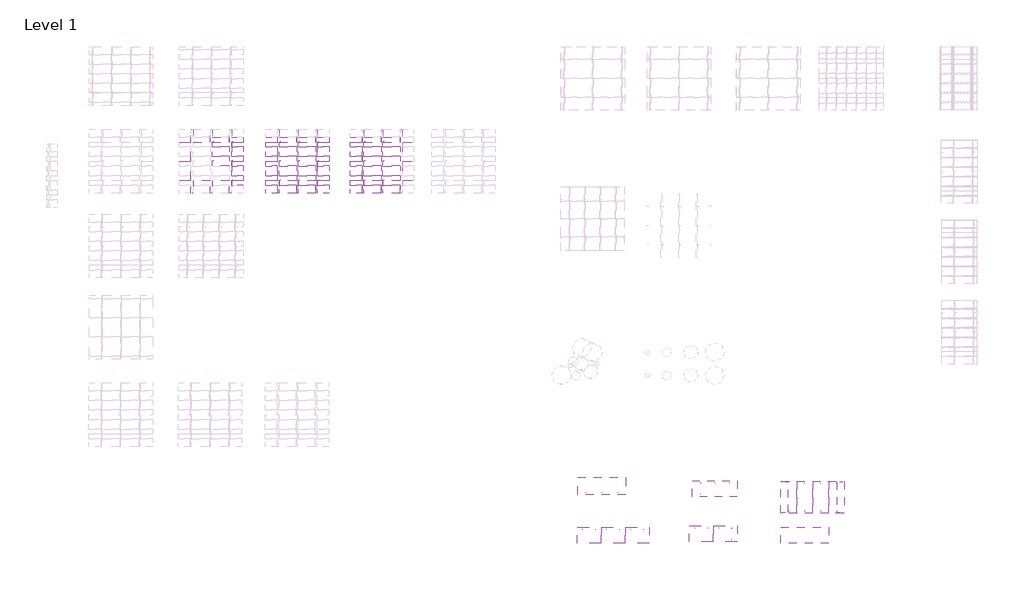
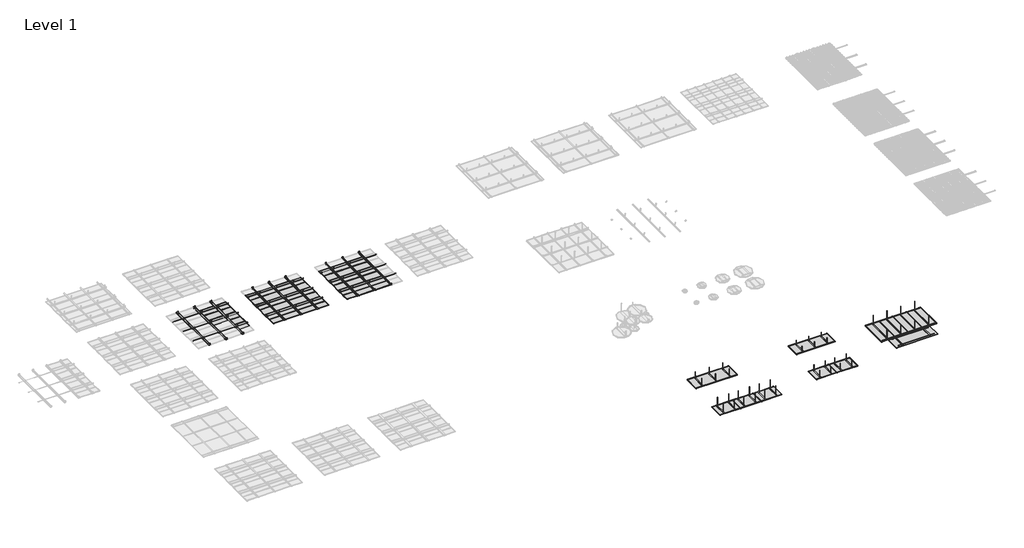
# One storey, part 8 of 32: 138 proxies.
"""IFC4 building model written with IfcOpenShell, lengths in millimetres."""

from ifc_helpers import new_model, si_unit, origin, place, context, project, spatial, transform, mapped, element, save
from components import generic_models_52426d55, generic_models_0eccee6e, generic_models_6a377f2d, generic_models_94a974c4, generic_models_d8b8c2a7, generic_models_cbd92ba2, generic_models_7af44e7f, generic_models_ce491251, generic_models_413290ff, generic_models_204b18f4, generic_models_ee162b96, generic_models_e66d4f3b, generic_models_28f6a95c, generic_models_9e18e937, generic_models_629f62d5, generic_models_460f2259, generic_models_2f172364, generic_models_67140d94, generic_models_d52b243d, generic_models_72923a4e, generic_models_4f811f19, generic_models_5acbdc38

model = new_model("IFC4")

# Units and contexts
model_context = context("Model", 3, world=origin())
ifc_project = project(units=[si_unit("LENGTHUNIT", "METRE", prefix="MILLI")], contexts=[model_context])

# Site, building, storey
site = spatial("IfcSite", under=ifc_project)
building = spatial("IfcBuilding", under=site)
storey = spatial("IfcBuildingStorey", under=building, Name="Level 1", Elevation=0.0)

# Proxies
placement = place(None, origin())
generic_models_shape = generic_models_52426d55(model_context)
element("IfcBuildingElementProxy", 1, Name="durlum_dur_SOLO_RHOMBOS_TYPE1 : durlum_dur_SOLO_RHOMBOS_TYPE1", ObjectType="durlum_dur_SOLO_RHOMBOS_TYPE1 : durlum_dur_SOLO_RHOMBOS_TYPE1", at=placement, inside=storey, context=model_context, shape_type="MappedRepresentation", body=[
    mapped(generic_models_shape, transform((12731.8454184, -21806.0362462, 3456.9628151), x_axis=(1.0, 0.0, 0.0), y_axis=(0.0, 1.0, 0.0), z_axis=(0.0, 0.0, 1.0))),
])
generic_models_2_shape = generic_models_0eccee6e(model_context)
element("IfcBuildingElementProxy", 2, Name="durlum_dur_SOLO_RHOMBOS_TYPE1 : durlum_dur_SOLO_RHOMBOS_TYPE1", ObjectType="durlum_dur_SOLO_RHOMBOS_TYPE1 : durlum_dur_SOLO_RHOMBOS_TYPE1", at=placement, inside=storey, context=model_context, shape_type="MappedRepresentation", body=[
    mapped(generic_models_2_shape, transform((14946.6662215, -24871.8754761, 3268.4515177), x_axis=(1.0, 0.0, 0.0), y_axis=(0.0, 1.0, 0.0), z_axis=(0.0, 0.0, 1.0))),
])
element("IfcBuildingElementProxy", 3, Name="durlum_dur_SOLO_RHOMBOS_TYPE1 : durlum_dur_SOLO_RHOMBOS_TYPE1", ObjectType="durlum_dur_SOLO_RHOMBOS_TYPE1 : durlum_dur_SOLO_RHOMBOS_TYPE1", at=placement, inside=storey, context=model_context, shape_type="MappedRepresentation", body=[
    mapped(generic_models_2_shape, transform((11946.6662215, -24871.8754761, 3268.4515177), x_axis=(1.0, 0.0, 0.0), y_axis=(0.0, 1.0, 0.0), z_axis=(0.0, 0.0, 1.0))),
])
element("IfcBuildingElementProxy", 4, Name="durlum_dur_SOLO_RHOMBOS_TYPE1 : durlum_dur_SOLO_RHOMBOS_TYPE1", ObjectType="durlum_dur_SOLO_RHOMBOS_TYPE1 : durlum_dur_SOLO_RHOMBOS_TYPE1", at=placement, inside=storey, context=model_context, shape_type="MappedRepresentation", body=[
    mapped(generic_models_2_shape, transform((13446.6662215, -24871.8754761, 3268.4515177), x_axis=(1.0, 0.0, 0.0), y_axis=(0.0, 1.0, 0.0), z_axis=(0.0, 0.0, 1.0))),
])
generic_models_3_shape = generic_models_6a377f2d(model_context)
element("IfcBuildingElementProxy", 5, Name="durlum_dur_SOLO_ACTIVE : durlum_dur_SOLO_ACTIVE", ObjectType="durlum_dur_SOLO_ACTIVE : durlum_dur_SOLO_ACTIVE", at=placement, inside=storey, context=model_context, shape_type="MappedRepresentation", body=[
    mapped(generic_models_3_shape, transform((25453.1966909, -24871.8754761, 3940.0), x_axis=(1.0, 0.0, 0.0), y_axis=(0.0, 1.0, 0.0), z_axis=(0.0, 0.0, 1.0))),
])
generic_models_4_shape = generic_models_94a974c4(model_context)
element("IfcBuildingElementProxy", 6, Name="durlum_dur_SOLO_TYPE4 : durlum_dur_SOLO_TYPE4", ObjectType="durlum_dur_SOLO_TYPE4 : durlum_dur_SOLO_TYPE4", at=placement, inside=storey, context=model_context, shape_type="MappedRepresentation", body=[
    mapped(generic_models_4_shape, transform((25937.9184493, -22496.5016177, 1568.4515177), x_axis=(1.0, 0.0, 0.0), y_axis=(0.0, 1.0, 0.0), z_axis=(0.0, 0.0, 1.0))),
])
generic_models_5_shape = generic_models_d8b8c2a7(model_context)
element("IfcBuildingElementProxy", 7, Name="durlum_dur_SOLO_TYPE4_panel : durlum_dur_SOLO_TYPE4_panel", ObjectType="durlum_dur_SOLO_TYPE4_panel : durlum_dur_SOLO_TYPE4_panel", at=placement, inside=storey, context=model_context, shape_type="MappedRepresentation", body=[
    mapped(generic_models_5_shape, transform((26437.9184493, -22496.5016177, 3268.4515177), x_axis=(0.0, 1.0, 0.0), y_axis=(-1.0, 0.0, 0.0), z_axis=(0.0, 0.0, 1.0))),
])
element("IfcBuildingElementProxy", 8, Name="durlum_dur_SOLO_TYPE4_panel : durlum_dur_SOLO_TYPE4_panel", ObjectType="durlum_dur_SOLO_TYPE4_panel : durlum_dur_SOLO_TYPE4_panel", at=placement, inside=storey, context=model_context, shape_type="MappedRepresentation", body=[
    mapped(generic_models_5_shape, transform((25437.9184493, -22496.5016177, 3268.4515177), x_axis=(0.0, 1.0, 0.0), y_axis=(-1.0, 0.0, 0.0), z_axis=(0.0, 0.0, 1.0))),
])
element("IfcBuildingElementProxy", 9, Name="durlum_dur_SOLO_TYPE4_panel : durlum_dur_SOLO_TYPE4_panel", ObjectType="durlum_dur_SOLO_TYPE4_panel : durlum_dur_SOLO_TYPE4_panel", at=placement, inside=storey, context=model_context, shape_type="MappedRepresentation", body=[
    mapped(generic_models_5_shape, transform((27437.9184493, -22496.5016177, 3268.4515177), x_axis=(0.0, 1.0, 0.0), y_axis=(-1.0, 0.0, 0.0), z_axis=(0.0, 0.0, 1.0))),
])
element("IfcBuildingElementProxy", 10, Name="durlum_dur_SOLO_TYPE4_panel : durlum_dur_SOLO_TYPE4_panel", ObjectType="durlum_dur_SOLO_TYPE4_panel : durlum_dur_SOLO_TYPE4_panel", at=placement, inside=storey, context=model_context, shape_type="MappedRepresentation", body=[
    mapped(generic_models_5_shape, transform((24437.9184493, -22496.5016177, 3268.4515177), x_axis=(0.0, 1.0, 0.0), y_axis=(-1.0, 0.0, 0.0), z_axis=(0.0, 0.0, 1.0))),
])
generic_models_6_shape = generic_models_cbd92ba2(model_context)
element("IfcBuildingElementProxy", 11, Name="durlum_S5.4K-BR : durlum_S5.4K-BR", ObjectType="durlum_S5.4K-BR : durlum_S5.4K-BR", at=placement, inside=storey, context=model_context, shape_type="MappedRepresentation", body=[
    mapped(generic_models_6_shape, transform((-6336.0747393, -1448.2303881, 1700.0), x_axis=(1.0, 0.0, 0.0), y_axis=(0.0, 1.0, 0.0), z_axis=(0.0, 0.0, 1.0))),
])
generic_models_7_shape = generic_models_7af44e7f(model_context)
element("IfcBuildingElementProxy", 12, Name="durlum_S5-150 : durlum_S5-150", ObjectType="durlum_S5-150 : durlum_S5-150", at=placement, inside=storey, context=model_context, shape_type="MappedRepresentation", body=[
    mapped(generic_models_7_shape, transform((-11736.0747393, -1448.2303881, 1700.0), x_axis=(1.0, 0.0, 0.0), y_axis=(0.0, 1.0, 0.0), z_axis=(0.0, 0.0, 1.0))),
])
generic_models_8_shape = generic_models_ce491251(model_context)
element("IfcBuildingElementProxy", 13, Name="durlum_U1300 : durlum_U1300", ObjectType="durlum_U1300 : durlum_U1300", at=placement, inside=storey, context=model_context, shape_type="MappedRepresentation", body=[
    mapped(generic_models_8_shape, transform((-10436.0747393, -2648.2303881, 3149.4124682), x_axis=(-1.0, 0.0, 0.0), y_axis=(0.0, -1.0, 0.0), z_axis=(0.0, 0.0, 1.0))),
])
element("IfcBuildingElementProxy", 14, Name="durlum_U1300 : durlum_U1300", ObjectType="durlum_U1300 : durlum_U1300", at=placement, inside=storey, context=model_context, shape_type="MappedRepresentation", body=[
    mapped(generic_models_8_shape, transform((-10436.0747393, -248.2303881, 3149.4124682), x_axis=(-1.0, 0.0, 0.0), y_axis=(0.0, -1.0, 0.0), z_axis=(0.0, 0.0, 1.0))),
])
element("IfcBuildingElementProxy", 15, Name="durlum_U1300 : durlum_U1300", ObjectType="durlum_U1300 : durlum_U1300", at=placement, inside=storey, context=model_context, shape_type="MappedRepresentation", body=[
    mapped(generic_models_8_shape, transform((-11636.0747393, -248.2303881, 3149.4124682), x_axis=(-1.0, 0.0, 0.0), y_axis=(0.0, -1.0, 0.0), z_axis=(0.0, 0.0, 1.0))),
])
element("IfcBuildingElementProxy", 16, Name="durlum_U1300 : durlum_U1300", ObjectType="durlum_U1300 : durlum_U1300", at=placement, inside=storey, context=model_context, shape_type="MappedRepresentation", body=[
    mapped(generic_models_8_shape, transform((-10436.0747393, -1448.2303881, 3149.4124682), x_axis=(-1.0, 0.0, 0.0), y_axis=(0.0, -1.0, 0.0), z_axis=(0.0, 0.0, 1.0))),
])
element("IfcBuildingElementProxy", 17, Name="durlum_U1300 : durlum_U1300", ObjectType="durlum_U1300 : durlum_U1300", at=placement, inside=storey, context=model_context, shape_type="MappedRepresentation", body=[
    mapped(generic_models_8_shape, transform((-11636.0747393, -1448.2303881, 3149.4124682), x_axis=(-1.0, 0.0, 0.0), y_axis=(0.0, -1.0, 0.0), z_axis=(0.0, 0.0, 1.0))),
])
element("IfcBuildingElementProxy", 18, Name="durlum_U1300 : durlum_U1300", ObjectType="durlum_U1300 : durlum_U1300", at=placement, inside=storey, context=model_context, shape_type="MappedRepresentation", body=[
    mapped(generic_models_8_shape, transform((-7436.0747393, -1448.2303881, 3149.4124682), x_axis=(-1.0, 0.0, 0.0), y_axis=(0.0, -1.0, 0.0), z_axis=(0.0, 0.0, 1.0))),
])
element("IfcBuildingElementProxy", 19, Name="durlum_U1300 : durlum_U1300", ObjectType="durlum_U1300 : durlum_U1300", at=placement, inside=storey, context=model_context, shape_type="MappedRepresentation", body=[
    mapped(generic_models_8_shape, transform((-7436.0747393, -2648.2303881, 3149.4124682), x_axis=(-1.0, 0.0, 0.0), y_axis=(0.0, -1.0, 0.0), z_axis=(0.0, 0.0, 1.0))),
])
element("IfcBuildingElementProxy", 20, Name="durlum_U1300 : durlum_U1300", ObjectType="durlum_U1300 : durlum_U1300", at=placement, inside=storey, context=model_context, shape_type="MappedRepresentation", body=[
    mapped(generic_models_8_shape, transform((-7436.0747393, -248.2303881, 3149.4124682), x_axis=(-1.0, 0.0, 0.0), y_axis=(0.0, -1.0, 0.0), z_axis=(0.0, 0.0, 1.0))),
])
element("IfcBuildingElementProxy", 21, Name="durlum_U1300 : durlum_U1300", ObjectType="durlum_U1300 : durlum_U1300", at=placement, inside=storey, context=model_context, shape_type="MappedRepresentation", body=[
    mapped(generic_models_8_shape, transform((-5036.0747393, -2648.2303881, 3149.4124682), x_axis=(-1.0, 0.0, 0.0), y_axis=(0.0, -1.0, 0.0), z_axis=(0.0, 0.0, 1.0))),
])
element("IfcBuildingElementProxy", 22, Name="durlum_U1300 : durlum_U1300", ObjectType="durlum_U1300 : durlum_U1300", at=placement, inside=storey, context=model_context, shape_type="MappedRepresentation", body=[
    mapped(generic_models_8_shape, transform((-5036.0747393, -248.2303881, 3149.4124682), x_axis=(-1.0, 0.0, 0.0), y_axis=(0.0, -1.0, 0.0), z_axis=(0.0, 0.0, 1.0))),
])
element("IfcBuildingElementProxy", 23, Name="durlum_U1300 : durlum_U1300", ObjectType="durlum_U1300 : durlum_U1300", at=placement, inside=storey, context=model_context, shape_type="MappedRepresentation", body=[
    mapped(generic_models_8_shape, transform((-5036.0747393, -1448.2303881, 3149.4124682), x_axis=(-1.0, 0.0, 0.0), y_axis=(0.0, -1.0, 0.0), z_axis=(0.0, 0.0, 1.0))),
])
element("IfcBuildingElementProxy", 24, Name="durlum_U1300 : durlum_U1300", ObjectType="durlum_U1300 : durlum_U1300", at=placement, inside=storey, context=model_context, shape_type="MappedRepresentation", body=[
    mapped(generic_models_8_shape, transform((-2136.0747393, -1448.2303881, 3149.4124682), x_axis=(-1.0, 0.0, 0.0), y_axis=(0.0, -1.0, 0.0), z_axis=(0.0, 0.0, 1.0))),
])
element("IfcBuildingElementProxy", 25, Name="durlum_U1300 : durlum_U1300", ObjectType="durlum_U1300 : durlum_U1300", at=placement, inside=storey, context=model_context, shape_type="MappedRepresentation", body=[
    mapped(generic_models_8_shape, transform((-2136.0747393, -2648.2303881, 3149.4124682), x_axis=(-1.0, 0.0, 0.0), y_axis=(0.0, -1.0, 0.0), z_axis=(0.0, 0.0, 1.0))),
])
element("IfcBuildingElementProxy", 26, Name="durlum_U1300 : durlum_U1300", ObjectType="durlum_U1300 : durlum_U1300", at=placement, inside=storey, context=model_context, shape_type="MappedRepresentation", body=[
    mapped(generic_models_8_shape, transform((-2136.0747393, -248.2303881, 3149.4124682), x_axis=(-1.0, 0.0, 0.0), y_axis=(0.0, -1.0, 0.0), z_axis=(0.0, 0.0, 1.0))),
])
element("IfcBuildingElementProxy", 27, Name="durlum_U1300 : durlum_U1300", ObjectType="durlum_U1300 : durlum_U1300", at=placement, inside=storey, context=model_context, shape_type="MappedRepresentation", body=[
    mapped(generic_models_8_shape, transform((-6236.0747393, -2648.2303881, 3149.4124682), x_axis=(-1.0, 0.0, 0.0), y_axis=(0.0, -1.0, 0.0), z_axis=(0.0, 0.0, 1.0))),
])
element("IfcBuildingElementProxy", 28, Name="durlum_U1300 : durlum_U1300", ObjectType="durlum_U1300 : durlum_U1300", at=placement, inside=storey, context=model_context, shape_type="MappedRepresentation", body=[
    mapped(generic_models_8_shape, transform((-6236.0747393, -248.2303881, 3149.4124682), x_axis=(-1.0, 0.0, 0.0), y_axis=(0.0, -1.0, 0.0), z_axis=(0.0, 0.0, 1.0))),
])
element("IfcBuildingElementProxy", 29, Name="durlum_U1300 : durlum_U1300", ObjectType="durlum_U1300 : durlum_U1300", at=placement, inside=storey, context=model_context, shape_type="MappedRepresentation", body=[
    mapped(generic_models_8_shape, transform((-6236.0747393, -1448.2303881, 3149.4124682), x_axis=(-1.0, 0.0, 0.0), y_axis=(0.0, -1.0, 0.0), z_axis=(0.0, 0.0, 1.0))),
])
element("IfcBuildingElementProxy", 30, Name="durlum_U1300 : durlum_U1300", ObjectType="durlum_U1300 : durlum_U1300", at=placement, inside=storey, context=model_context, shape_type="MappedRepresentation", body=[
    mapped(generic_models_8_shape, transform((-936.0747393, -2648.2303881, 3149.4124682), x_axis=(-1.0, 0.0, 0.0), y_axis=(0.0, -1.0, 0.0), z_axis=(0.0, 0.0, 1.0))),
])
element("IfcBuildingElementProxy", 31, Name="durlum_U1300 : durlum_U1300", ObjectType="durlum_U1300 : durlum_U1300", at=placement, inside=storey, context=model_context, shape_type="MappedRepresentation", body=[
    mapped(generic_models_8_shape, transform((-936.0747393, -248.2303881, 3149.4124682), x_axis=(-1.0, 0.0, 0.0), y_axis=(0.0, -1.0, 0.0), z_axis=(0.0, 0.0, 1.0))),
])
element("IfcBuildingElementProxy", 32, Name="durlum_U1300 : durlum_U1300", ObjectType="durlum_U1300 : durlum_U1300", at=placement, inside=storey, context=model_context, shape_type="MappedRepresentation", body=[
    mapped(generic_models_8_shape, transform((-936.0747393, -1448.2303881, 3149.4124682), x_axis=(-1.0, 0.0, 0.0), y_axis=(0.0, -1.0, 0.0), z_axis=(0.0, 0.0, 1.0))),
])
generic_models_9_shape = generic_models_413290ff(model_context)
element("IfcBuildingElementProxy", 33, Name="durlum_threaded_rod_M6 : durlum_threaded_rod_M6", ObjectType="durlum_threaded_rod_M6 : durlum_threaded_rod_M6", at=placement, inside=storey, context=model_context, shape_type="MappedRepresentation", body=[
    mapped(generic_models_9_shape, transform((13731.8454184, -22206.0362462, 3506.9628151), x_axis=(0.0, -1.0, 0.0), y_axis=(1.0, 0.0, 0.0), z_axis=(0.0, 0.0, 1.0))),
])
element("IfcBuildingElementProxy", 34, Name="durlum_threaded_rod_M6 : durlum_threaded_rod_M6", ObjectType="durlum_threaded_rod_M6 : durlum_threaded_rod_M6", at=placement, inside=storey, context=model_context, shape_type="MappedRepresentation", body=[
    mapped(generic_models_9_shape, transform((13731.8454184, -21406.0362462, 3506.9628151), x_axis=(0.0, -1.0, 0.0), y_axis=(1.0, 0.0, 0.0), z_axis=(0.0, 0.0, 1.0))),
])
element("IfcBuildingElementProxy", 35, Name="durlum_threaded_rod_M6 : durlum_threaded_rod_M6", ObjectType="durlum_threaded_rod_M6 : durlum_threaded_rod_M6", at=placement, inside=storey, context=model_context, shape_type="MappedRepresentation", body=[
    mapped(generic_models_9_shape, transform((11731.8454184, -22206.0362462, 3506.9628151), x_axis=(0.0, -1.0, 0.0), y_axis=(1.0, 0.0, 0.0), z_axis=(0.0, 0.0, 1.0))),
])
element("IfcBuildingElementProxy", 36, Name="durlum_threaded_rod_M6 : durlum_threaded_rod_M6", ObjectType="durlum_threaded_rod_M6 : durlum_threaded_rod_M6", at=placement, inside=storey, context=model_context, shape_type="MappedRepresentation", body=[
    mapped(generic_models_9_shape, transform((11731.8454184, -21406.0362462, 3506.9628151), x_axis=(0.0, -1.0, 0.0), y_axis=(1.0, 0.0, 0.0), z_axis=(0.0, 0.0, 1.0))),
])
element("IfcBuildingElementProxy", 37, Name="durlum_threaded_rod_M6 : durlum_threaded_rod_M6", ObjectType="durlum_threaded_rod_M6 : durlum_threaded_rod_M6", at=placement, inside=storey, context=model_context, shape_type="MappedRepresentation", body=[
    mapped(generic_models_9_shape, transform((12731.8454184, -22206.0362462, 3506.9628151), x_axis=(0.0, -1.0, 0.0), y_axis=(1.0, 0.0, 0.0), z_axis=(0.0, 0.0, 1.0))),
])
element("IfcBuildingElementProxy", 38, Name="durlum_threaded_rod_M6 : durlum_threaded_rod_M6", ObjectType="durlum_threaded_rod_M6 : durlum_threaded_rod_M6", at=placement, inside=storey, context=model_context, shape_type="MappedRepresentation", body=[
    mapped(generic_models_9_shape, transform((12731.8454184, -21406.0362462, 3506.9628151), x_axis=(0.0, -1.0, 0.0), y_axis=(1.0, 0.0, 0.0), z_axis=(0.0, 0.0, 1.0))),
])
generic_models_10_shape = generic_models_204b18f4(model_context)
element("IfcBuildingElementProxy", 39, Name="durlum_threaded_rod_M6 : durlum_threaded_rod_M6", ObjectType="durlum_threaded_rod_M6 : durlum_threaded_rod_M6", at=placement, inside=storey, context=model_context, shape_type="MappedRepresentation", body=[
    mapped(generic_models_10_shape, transform((25437.9184493, -21629.5016177, 3317.4515177), x_axis=(0.0, 1.0, 0.0), y_axis=(-1.0, 0.0, 0.0), z_axis=(0.0, 0.0, 1.0))),
])
element("IfcBuildingElementProxy", 40, Name="durlum_threaded_rod_M6 : durlum_threaded_rod_M6", ObjectType="durlum_threaded_rod_M6 : durlum_threaded_rod_M6", at=placement, inside=storey, context=model_context, shape_type="MappedRepresentation", body=[
    mapped(generic_models_10_shape, transform((25437.9184493, -23363.5016177, 3317.4515177), x_axis=(0.0, 1.0, 0.0), y_axis=(-1.0, 0.0, 0.0), z_axis=(0.0, 0.0, 1.0))),
])
element("IfcBuildingElementProxy", 41, Name="durlum_threaded_rod_M6 : durlum_threaded_rod_M6", ObjectType="durlum_threaded_rod_M6 : durlum_threaded_rod_M6", at=placement, inside=storey, context=model_context, shape_type="MappedRepresentation", body=[
    mapped(generic_models_10_shape, transform((26437.9184493, -21629.5016177, 3317.4515177), x_axis=(0.0, 1.0, 0.0), y_axis=(-1.0, 0.0, 0.0), z_axis=(0.0, 0.0, 1.0))),
])
element("IfcBuildingElementProxy", 42, Name="durlum_threaded_rod_M6 : durlum_threaded_rod_M6", ObjectType="durlum_threaded_rod_M6 : durlum_threaded_rod_M6", at=placement, inside=storey, context=model_context, shape_type="MappedRepresentation", body=[
    mapped(generic_models_10_shape, transform((26437.9184493, -23363.5016177, 3317.4515177), x_axis=(0.0, 1.0, 0.0), y_axis=(-1.0, 0.0, 0.0), z_axis=(0.0, 0.0, 1.0))),
])
element("IfcBuildingElementProxy", 43, Name="durlum_threaded_rod_M6 : durlum_threaded_rod_M6", ObjectType="durlum_threaded_rod_M6 : durlum_threaded_rod_M6", at=placement, inside=storey, context=model_context, shape_type="MappedRepresentation", body=[
    mapped(generic_models_10_shape, transform((24437.9184493, -21629.5016177, 3317.4515177), x_axis=(0.0, 1.0, 0.0), y_axis=(-1.0, 0.0, 0.0), z_axis=(0.0, 0.0, 1.0))),
])
element("IfcBuildingElementProxy", 44, Name="durlum_threaded_rod_M6 : durlum_threaded_rod_M6", ObjectType="durlum_threaded_rod_M6 : durlum_threaded_rod_M6", at=placement, inside=storey, context=model_context, shape_type="MappedRepresentation", body=[
    mapped(generic_models_10_shape, transform((24437.9184493, -23363.5016177, 3317.4515177), x_axis=(0.0, 1.0, 0.0), y_axis=(-1.0, 0.0, 0.0), z_axis=(0.0, 0.0, 1.0))),
])
element("IfcBuildingElementProxy", 45, Name="durlum_threaded_rod_M6 : durlum_threaded_rod_M6", ObjectType="durlum_threaded_rod_M6 : durlum_threaded_rod_M6", at=placement, inside=storey, context=model_context, shape_type="MappedRepresentation", body=[
    mapped(generic_models_10_shape, transform((27437.9184493, -21629.5016177, 3317.4515177), x_axis=(0.0, 1.0, 0.0), y_axis=(-1.0, 0.0, 0.0), z_axis=(0.0, 0.0, 1.0))),
])
element("IfcBuildingElementProxy", 46, Name="durlum_threaded_rod_M6 : durlum_threaded_rod_M6", ObjectType="durlum_threaded_rod_M6 : durlum_threaded_rod_M6", at=placement, inside=storey, context=model_context, shape_type="MappedRepresentation", body=[
    mapped(generic_models_10_shape, transform((27437.9184493, -23363.5016177, 3317.4515177), x_axis=(0.0, 1.0, 0.0), y_axis=(-1.0, 0.0, 0.0), z_axis=(0.0, 0.0, 1.0))),
])
element("IfcBuildingElementProxy", 47, Name="durlum_threaded_rod_M6 : durlum_threaded_rod_M6", ObjectType="durlum_threaded_rod_M6 : durlum_threaded_rod_M6", at=placement, inside=storey, context=model_context, shape_type="MappedRepresentation", body=[
    mapped(generic_models_10_shape, transform((15351.6662215, -25221.8754761, 3318.4515177), x_axis=(0.0, -1.0, 0.0), y_axis=(1.0, 0.0, 0.0), z_axis=(0.0, 0.0, 1.0))),
])
element("IfcBuildingElementProxy", 48, Name="durlum_threaded_rod_M6 : durlum_threaded_rod_M6", ObjectType="durlum_threaded_rod_M6 : durlum_threaded_rod_M6", at=placement, inside=storey, context=model_context, shape_type="MappedRepresentation", body=[
    mapped(generic_models_10_shape, transform((15351.6662215, -24521.8754761, 3318.4515177), x_axis=(0.0, -1.0, 0.0), y_axis=(1.0, 0.0, 0.0), z_axis=(0.0, 0.0, 1.0))),
])
element("IfcBuildingElementProxy", 49, Name="durlum_threaded_rod_M6 : durlum_threaded_rod_M6", ObjectType="durlum_threaded_rod_M6 : durlum_threaded_rod_M6", at=placement, inside=storey, context=model_context, shape_type="MappedRepresentation", body=[
    mapped(generic_models_10_shape, transform((14541.6662215, -25221.8754761, 3318.4515177), x_axis=(0.0, -1.0, 0.0), y_axis=(1.0, 0.0, 0.0), z_axis=(0.0, 0.0, 1.0))),
])
element("IfcBuildingElementProxy", 50, Name="durlum_threaded_rod_M6 : durlum_threaded_rod_M6", ObjectType="durlum_threaded_rod_M6 : durlum_threaded_rod_M6", at=placement, inside=storey, context=model_context, shape_type="MappedRepresentation", body=[
    mapped(generic_models_10_shape, transform((14541.6662215, -24521.8754761, 3318.4515177), x_axis=(0.0, -1.0, 0.0), y_axis=(1.0, 0.0, 0.0), z_axis=(0.0, 0.0, 1.0))),
])
element("IfcBuildingElementProxy", 51, Name="durlum_threaded_rod_M6 : durlum_threaded_rod_M6", ObjectType="durlum_threaded_rod_M6 : durlum_threaded_rod_M6", at=placement, inside=storey, context=model_context, shape_type="MappedRepresentation", body=[
    mapped(generic_models_10_shape, transform((12351.6662215, -25221.8754761, 3318.4515177), x_axis=(0.0, -1.0, 0.0), y_axis=(1.0, 0.0, 0.0), z_axis=(0.0, 0.0, 1.0))),
])
element("IfcBuildingElementProxy", 52, Name="durlum_threaded_rod_M6 : durlum_threaded_rod_M6", ObjectType="durlum_threaded_rod_M6 : durlum_threaded_rod_M6", at=placement, inside=storey, context=model_context, shape_type="MappedRepresentation", body=[
    mapped(generic_models_10_shape, transform((12351.6662215, -24521.8754761, 3318.4515177), x_axis=(0.0, -1.0, 0.0), y_axis=(1.0, 0.0, 0.0), z_axis=(0.0, 0.0, 1.0))),
])
element("IfcBuildingElementProxy", 53, Name="durlum_threaded_rod_M6 : durlum_threaded_rod_M6", ObjectType="durlum_threaded_rod_M6 : durlum_threaded_rod_M6", at=placement, inside=storey, context=model_context, shape_type="MappedRepresentation", body=[
    mapped(generic_models_10_shape, transform((11541.6662215, -25221.8754761, 3318.4515177), x_axis=(0.0, -1.0, 0.0), y_axis=(1.0, 0.0, 0.0), z_axis=(0.0, 0.0, 1.0))),
])
element("IfcBuildingElementProxy", 54, Name="durlum_threaded_rod_M6 : durlum_threaded_rod_M6", ObjectType="durlum_threaded_rod_M6 : durlum_threaded_rod_M6", at=placement, inside=storey, context=model_context, shape_type="MappedRepresentation", body=[
    mapped(generic_models_10_shape, transform((11541.6662215, -24521.8754761, 3318.4515177), x_axis=(0.0, -1.0, 0.0), y_axis=(1.0, 0.0, 0.0), z_axis=(0.0, 0.0, 1.0))),
])
element("IfcBuildingElementProxy", 55, Name="durlum_threaded_rod_M6 : durlum_threaded_rod_M6", ObjectType="durlum_threaded_rod_M6 : durlum_threaded_rod_M6", at=placement, inside=storey, context=model_context, shape_type="MappedRepresentation", body=[
    mapped(generic_models_10_shape, transform((13851.6662215, -25221.8754761, 3318.4515177), x_axis=(0.0, -1.0, 0.0), y_axis=(1.0, 0.0, 0.0), z_axis=(0.0, 0.0, 1.0))),
])
element("IfcBuildingElementProxy", 56, Name="durlum_threaded_rod_M6 : durlum_threaded_rod_M6", ObjectType="durlum_threaded_rod_M6 : durlum_threaded_rod_M6", at=placement, inside=storey, context=model_context, shape_type="MappedRepresentation", body=[
    mapped(generic_models_10_shape, transform((13851.6662215, -24521.8754761, 3318.4515177), x_axis=(0.0, -1.0, 0.0), y_axis=(1.0, 0.0, 0.0), z_axis=(0.0, 0.0, 1.0))),
])
element("IfcBuildingElementProxy", 57, Name="durlum_threaded_rod_M6 : durlum_threaded_rod_M6", ObjectType="durlum_threaded_rod_M6 : durlum_threaded_rod_M6", at=placement, inside=storey, context=model_context, shape_type="MappedRepresentation", body=[
    mapped(generic_models_10_shape, transform((13041.6662215, -25221.8754761, 3318.4515177), x_axis=(0.0, -1.0, 0.0), y_axis=(1.0, 0.0, 0.0), z_axis=(0.0, 0.0, 1.0))),
])
element("IfcBuildingElementProxy", 58, Name="durlum_threaded_rod_M6 : durlum_threaded_rod_M6", ObjectType="durlum_threaded_rod_M6 : durlum_threaded_rod_M6", at=placement, inside=storey, context=model_context, shape_type="MappedRepresentation", body=[
    mapped(generic_models_10_shape, transform((13041.6662215, -24521.8754761, 3318.4515177), x_axis=(0.0, -1.0, 0.0), y_axis=(1.0, 0.0, 0.0), z_axis=(0.0, 0.0, 1.0))),
])
generic_models_11_shape = generic_models_ee162b96(model_context)
element("IfcBuildingElementProxy", 59, Name="durlum_threaded_rod_M6 : durlum_threaded_rod_M6", ObjectType="durlum_threaded_rod_M6 : durlum_threaded_rod_M6", at=placement, inside=storey, context=model_context, shape_type="MappedRepresentation", body=[
    mapped(generic_models_11_shape, transform((20714.3936931, -22313.7182632, 3672.1013669), x_axis=(0.0, -1.0, 0.0), y_axis=(1.0, 0.0, 0.0), z_axis=(0.0, 0.0, 1.0))),
])
element("IfcBuildingElementProxy", 60, Name="durlum_threaded_rod_M6 : durlum_threaded_rod_M6", ObjectType="durlum_threaded_rod_M6 : durlum_threaded_rod_M6", at=placement, inside=storey, context=model_context, shape_type="MappedRepresentation", body=[
    mapped(generic_models_11_shape, transform((20714.3936931, -21613.7182632, 3672.1013669), x_axis=(0.0, -1.0, 0.0), y_axis=(1.0, 0.0, 0.0), z_axis=(0.0, 0.0, 1.0))),
])
element("IfcBuildingElementProxy", 61, Name="durlum_threaded_rod_M6 : durlum_threaded_rod_M6", ObjectType="durlum_threaded_rod_M6 : durlum_threaded_rod_M6", at=placement, inside=storey, context=model_context, shape_type="MappedRepresentation", body=[
    mapped(generic_models_11_shape, transform((18914.3936931, -22313.7182632, 3672.1013669), x_axis=(0.0, -1.0, 0.0), y_axis=(1.0, 0.0, 0.0), z_axis=(0.0, 0.0, 1.0))),
])
element("IfcBuildingElementProxy", 62, Name="durlum_threaded_rod_M6 : durlum_threaded_rod_M6", ObjectType="durlum_threaded_rod_M6 : durlum_threaded_rod_M6", at=placement, inside=storey, context=model_context, shape_type="MappedRepresentation", body=[
    mapped(generic_models_11_shape, transform((18914.3936931, -21613.7182632, 3672.1013669), x_axis=(0.0, -1.0, 0.0), y_axis=(1.0, 0.0, 0.0), z_axis=(0.0, 0.0, 1.0))),
])
element("IfcBuildingElementProxy", 63, Name="durlum_threaded_rod_M6 : durlum_threaded_rod_M6", ObjectType="durlum_threaded_rod_M6 : durlum_threaded_rod_M6", at=placement, inside=storey, context=model_context, shape_type="MappedRepresentation", body=[
    mapped(generic_models_11_shape, transform((19814.3936931, -22313.7182632, 3672.1013669), x_axis=(0.0, -1.0, 0.0), y_axis=(1.0, 0.0, 0.0), z_axis=(0.0, 0.0, 1.0))),
])
element("IfcBuildingElementProxy", 64, Name="durlum_threaded_rod_M6 : durlum_threaded_rod_M6", ObjectType="durlum_threaded_rod_M6 : durlum_threaded_rod_M6", at=placement, inside=storey, context=model_context, shape_type="MappedRepresentation", body=[
    mapped(generic_models_11_shape, transform((19814.3936931, -21613.7182632, 3672.1013669), x_axis=(0.0, -1.0, 0.0), y_axis=(1.0, 0.0, 0.0), z_axis=(0.0, 0.0, 1.0))),
])
generic_models_12_shape = generic_models_e66d4f3b(model_context)
element("IfcBuildingElementProxy", 65, Name="durlum_threaded_rod_M6 : durlum_threaded_rod_M6", ObjectType="durlum_threaded_rod_M6 : durlum_threaded_rod_M6", at=placement, inside=storey, context=model_context, shape_type="MappedRepresentation", body=[
    mapped(generic_models_12_shape, transform((20864.6192672, -25135.1771912, 3528.2982312), x_axis=(0.0, -1.0, 0.0), y_axis=(1.0, 0.0, 0.0), z_axis=(0.0, 0.0, 1.0))),
])
element("IfcBuildingElementProxy", 66, Name="durlum_threaded_rod_M6 : durlum_threaded_rod_M6", ObjectType="durlum_threaded_rod_M6 : durlum_threaded_rod_M6", at=placement, inside=storey, context=model_context, shape_type="MappedRepresentation", body=[
    mapped(generic_models_12_shape, transform((20864.6192672, -24435.1771912, 3528.2982312), x_axis=(0.0, -1.0, 0.0), y_axis=(1.0, 0.0, 0.0), z_axis=(0.0, 0.0, 1.0))),
])
element("IfcBuildingElementProxy", 67, Name="durlum_threaded_rod_M6 : durlum_threaded_rod_M6", ObjectType="durlum_threaded_rod_M6 : durlum_threaded_rod_M6", at=placement, inside=storey, context=model_context, shape_type="MappedRepresentation", body=[
    mapped(generic_models_12_shape, transform((20054.6192672, -25135.1771912, 3528.2982312), x_axis=(0.0, -1.0, 0.0), y_axis=(1.0, 0.0, 0.0), z_axis=(0.0, 0.0, 1.0))),
])
element("IfcBuildingElementProxy", 68, Name="durlum_threaded_rod_M6 : durlum_threaded_rod_M6", ObjectType="durlum_threaded_rod_M6 : durlum_threaded_rod_M6", at=placement, inside=storey, context=model_context, shape_type="MappedRepresentation", body=[
    mapped(generic_models_12_shape, transform((20054.6192672, -24435.1771912, 3528.2982312), x_axis=(0.0, -1.0, 0.0), y_axis=(1.0, 0.0, 0.0), z_axis=(0.0, 0.0, 1.0))),
])
element("IfcBuildingElementProxy", 69, Name="durlum_threaded_rod_M6 : durlum_threaded_rod_M6", ObjectType="durlum_threaded_rod_M6 : durlum_threaded_rod_M6", at=placement, inside=storey, context=model_context, shape_type="MappedRepresentation", body=[
    mapped(generic_models_12_shape, transform((19364.6192672, -25135.1771912, 3528.2982312), x_axis=(0.0, -1.0, 0.0), y_axis=(1.0, 0.0, 0.0), z_axis=(0.0, 0.0, 1.0))),
])
element("IfcBuildingElementProxy", 70, Name="durlum_threaded_rod_M6 : durlum_threaded_rod_M6", ObjectType="durlum_threaded_rod_M6 : durlum_threaded_rod_M6", at=placement, inside=storey, context=model_context, shape_type="MappedRepresentation", body=[
    mapped(generic_models_12_shape, transform((19364.6192672, -24435.1771912, 3528.2982312), x_axis=(0.0, -1.0, 0.0), y_axis=(1.0, 0.0, 0.0), z_axis=(0.0, 0.0, 1.0))),
])
element("IfcBuildingElementProxy", 71, Name="durlum_threaded_rod_M6 : durlum_threaded_rod_M6", ObjectType="durlum_threaded_rod_M6 : durlum_threaded_rod_M6", at=placement, inside=storey, context=model_context, shape_type="MappedRepresentation", body=[
    mapped(generic_models_12_shape, transform((18554.6192672, -25135.1771912, 3528.2982312), x_axis=(0.0, -1.0, 0.0), y_axis=(1.0, 0.0, 0.0), z_axis=(0.0, 0.0, 1.0))),
])
element("IfcBuildingElementProxy", 72, Name="durlum_threaded_rod_M6 : durlum_threaded_rod_M6", ObjectType="durlum_threaded_rod_M6 : durlum_threaded_rod_M6", at=placement, inside=storey, context=model_context, shape_type="MappedRepresentation", body=[
    mapped(generic_models_12_shape, transform((18554.6192672, -24435.1771912, 3528.2982312), x_axis=(0.0, -1.0, 0.0), y_axis=(1.0, 0.0, 0.0), z_axis=(0.0, 0.0, 1.0))),
])
generic_models_13_shape = generic_models_28f6a95c(model_context)
element("IfcBuildingElementProxy", 73, Name="durlum_U1042 : durlum_U1042", ObjectType="durlum_U1042 : durlum_U1042", at=placement, inside=storey, context=model_context, shape_type="MappedRepresentation", body=[
    mapped(generic_models_13_shape, transform((-8336.0747393, -263.2303881, 3906.0), x_axis=(0.0, -1.0, 0.0), y_axis=(1.0, 0.0, 0.0), z_axis=(0.0, 0.0, 1.0))),
])
element("IfcBuildingElementProxy", 74, Name="durlum_U1042 : durlum_U1042", ObjectType="durlum_U1042 : durlum_U1042", at=placement, inside=storey, context=model_context, shape_type="MappedRepresentation", body=[
    mapped(generic_models_13_shape, transform((-8336.0747393, -1463.2303881, 3906.0), x_axis=(0.0, -1.0, 0.0), y_axis=(1.0, 0.0, 0.0), z_axis=(0.0, 0.0, 1.0))),
])
element("IfcBuildingElementProxy", 75, Name="durlum_U1042 : durlum_U1042", ObjectType="durlum_U1042 : durlum_U1042", at=placement, inside=storey, context=model_context, shape_type="MappedRepresentation", body=[
    mapped(generic_models_13_shape, transform((-8336.0747393, -2663.2303881, 3906.0), x_axis=(0.0, -1.0, 0.0), y_axis=(1.0, 0.0, 0.0), z_axis=(0.0, 0.0, 1.0))),
])
element("IfcBuildingElementProxy", 76, Name="durlum_U1042 : durlum_U1042", ObjectType="durlum_U1042 : durlum_U1042", at=placement, inside=storey, context=model_context, shape_type="MappedRepresentation", body=[
    mapped(generic_models_13_shape, transform((-3036.0747393, -263.2303881, 3906.0), x_axis=(0.0, -1.0, 0.0), y_axis=(1.0, 0.0, 0.0), z_axis=(0.0, 0.0, 1.0))),
])
element("IfcBuildingElementProxy", 77, Name="durlum_U1042 : durlum_U1042", ObjectType="durlum_U1042 : durlum_U1042", at=placement, inside=storey, context=model_context, shape_type="MappedRepresentation", body=[
    mapped(generic_models_13_shape, transform((-3036.0747393, -1463.2303881, 3906.0), x_axis=(0.0, -1.0, 0.0), y_axis=(1.0, 0.0, 0.0), z_axis=(0.0, 0.0, 1.0))),
])
element("IfcBuildingElementProxy", 78, Name="durlum_U1042 : durlum_U1042", ObjectType="durlum_U1042 : durlum_U1042", at=placement, inside=storey, context=model_context, shape_type="MappedRepresentation", body=[
    mapped(generic_models_13_shape, transform((-3036.0747393, -2663.2303881, 3906.0), x_axis=(0.0, -1.0, 0.0), y_axis=(1.0, 0.0, 0.0), z_axis=(0.0, 0.0, 1.0))),
])
generic_models_14_shape = generic_models_9e18e937(model_context)
element("IfcBuildingElementProxy", 79, Name="durlum_U1042 : durlum_U1042", ObjectType="durlum_U1042 : durlum_U1042", at=placement, inside=storey, context=model_context, shape_type="MappedRepresentation", body=[
    mapped(generic_models_14_shape, transform((-9736.0747393, -263.2303881, 3906.0), x_axis=(0.0, -1.0, 0.0), y_axis=(1.0, 0.0, 0.0), z_axis=(0.0, 0.0, 1.0))),
])
element("IfcBuildingElementProxy", 80, Name="durlum_U1042 : durlum_U1042", ObjectType="durlum_U1042 : durlum_U1042", at=placement, inside=storey, context=model_context, shape_type="MappedRepresentation", body=[
    mapped(generic_models_14_shape, transform((-9736.0747393, -1463.2303881, 3906.0), x_axis=(0.0, -1.0, 0.0), y_axis=(1.0, 0.0, 0.0), z_axis=(0.0, 0.0, 1.0))),
])
element("IfcBuildingElementProxy", 81, Name="durlum_U1042 : durlum_U1042", ObjectType="durlum_U1042 : durlum_U1042", at=placement, inside=storey, context=model_context, shape_type="MappedRepresentation", body=[
    mapped(generic_models_14_shape, transform((-9736.0747393, -2663.2303881, 3906.0), x_axis=(0.0, -1.0, 0.0), y_axis=(1.0, 0.0, 0.0), z_axis=(0.0, 0.0, 1.0))),
])
element("IfcBuildingElementProxy", 82, Name="durlum_U1042 : durlum_U1042", ObjectType="durlum_U1042 : durlum_U1042", at=placement, inside=storey, context=model_context, shape_type="MappedRepresentation", body=[
    mapped(generic_models_14_shape, transform((-4336.0747393, -263.2303881, 3906.0), x_axis=(0.0, -1.0, 0.0), y_axis=(1.0, 0.0, 0.0), z_axis=(0.0, 0.0, 1.0))),
])
element("IfcBuildingElementProxy", 83, Name="durlum_U1042 : durlum_U1042", ObjectType="durlum_U1042 : durlum_U1042", at=placement, inside=storey, context=model_context, shape_type="MappedRepresentation", body=[
    mapped(generic_models_14_shape, transform((-4336.0747393, -1463.2303881, 3906.0), x_axis=(0.0, -1.0, 0.0), y_axis=(1.0, 0.0, 0.0), z_axis=(0.0, 0.0, 1.0))),
])
element("IfcBuildingElementProxy", 84, Name="durlum_U1042 : durlum_U1042", ObjectType="durlum_U1042 : durlum_U1042", at=placement, inside=storey, context=model_context, shape_type="MappedRepresentation", body=[
    mapped(generic_models_14_shape, transform((-4336.0747393, -2663.2303881, 3906.0), x_axis=(0.0, -1.0, 0.0), y_axis=(1.0, 0.0, 0.0), z_axis=(0.0, 0.0, 1.0))),
])
element("IfcBuildingElementProxy", 85, Name="durlum_S5.6FH : durlum_S5.6FH", ObjectType="durlum_S5.6FH : durlum_S5.6FH", at=placement, inside=storey, context=model_context, shape_type="MappedRepresentation", body=[
    mapped(generic_models_6_shape, transform((-1036.0747393, -1448.2303881, 1700.0), x_axis=(1.0, 0.0, 0.0), y_axis=(0.0, 1.0, 0.0), z_axis=(0.0, 0.0, 1.0))),
])
generic_models_15_shape = generic_models_629f62d5(model_context)
element("IfcBuildingElementProxy", 86, Name="durlum_dur_SOLO_TYPE2_panel : durlum_dur_SOLO_TYPE2_panel", ObjectType="durlum_dur_SOLO_TYPE2_panel : durlum_dur_SOLO_TYPE2_panel", at=placement, inside=storey, context=model_context, shape_type="MappedRepresentation", body=[
    mapped(generic_models_15_shape, transform((20459.6192672, -24785.1771912, 3478.2982312), x_axis=(1.0, 0.0, 0.0), y_axis=(0.0, 1.0, 0.0), z_axis=(0.0, 0.0, 1.0))),
])
element("IfcBuildingElementProxy", 87, Name="durlum_dur_SOLO_TYPE2_panel : durlum_dur_SOLO_TYPE2_panel", ObjectType="durlum_dur_SOLO_TYPE2_panel : durlum_dur_SOLO_TYPE2_panel", at=placement, inside=storey, context=model_context, shape_type="MappedRepresentation", body=[
    mapped(generic_models_15_shape, transform((18959.6192672, -24785.1771912, 3478.2982312), x_axis=(1.0, 0.0, 0.0), y_axis=(0.0, 1.0, 0.0), z_axis=(0.0, 0.0, 1.0))),
])
generic_models_16_shape = generic_models_460f2259(model_context)
element("IfcBuildingElementProxy", 88, Name="durlum_S5-100_panel : durlum_S5-100_panel", ObjectType="durlum_S5-100_panel : durlum_S5-100_panel", at=placement, inside=storey, context=model_context, shape_type="MappedRepresentation", body=[
    mapped(generic_models_16_shape, transform((-11136.0747393, -1448.2303881, 3800.0), x_axis=(1.0, 0.0, 0.0), y_axis=(0.0, 1.0, 0.0), z_axis=(0.0, 0.0, 1.0))),
])
element("IfcBuildingElementProxy", 89, Name="durlum_S5-100_panel : durlum_S5-100_panel", ObjectType="durlum_S5-100_panel : durlum_S5-100_panel", at=placement, inside=storey, context=model_context, shape_type="MappedRepresentation", body=[
    mapped(generic_models_16_shape, transform((-11136.0747393, -848.2303881, 3800.0), x_axis=(1.0, 0.0, 0.0), y_axis=(0.0, 1.0, 0.0), z_axis=(0.0, 0.0, 1.0))),
])
element("IfcBuildingElementProxy", 90, Name="durlum_S5-100_panel : durlum_S5-100_panel", ObjectType="durlum_S5-100_panel : durlum_S5-100_panel", at=placement, inside=storey, context=model_context, shape_type="MappedRepresentation", body=[
    mapped(generic_models_16_shape, transform((-11136.0747393, -248.2303881, 3800.0), x_axis=(1.0, 0.0, 0.0), y_axis=(0.0, 1.0, 0.0), z_axis=(0.0, 0.0, 1.0))),
])
generic_models_17_shape = generic_models_2f172364(model_context)
element("IfcBuildingElementProxy", 91, Name="durlum_S5-100_panel : durlum_S5-100_panel_wall_width_cut", ObjectType="durlum_S5-100_panel : durlum_S5-100_panel_wall_width_cut", at=placement, inside=storey, context=model_context, shape_type="MappedRepresentation", body=[
    mapped(generic_models_17_shape, transform((-5736.0747393, -3198.2303881, 3800.0), x_axis=(1.0, 0.0, 0.0), y_axis=(0.0, 1.0, 0.0), z_axis=(0.0, 0.0, 1.0))),
])
element("IfcBuildingElementProxy", 92, Name="durlum_S5-100_panel : durlum_S5-100_panel_wall_width_cut", ObjectType="durlum_S5-100_panel : durlum_S5-100_panel_wall_width_cut", at=placement, inside=storey, context=model_context, shape_type="MappedRepresentation", body=[
    mapped(generic_models_17_shape, transform((-6936.0747393, -3198.2303881, 3800.0), x_axis=(1.0, 0.0, 0.0), y_axis=(0.0, 1.0, 0.0), z_axis=(0.0, 0.0, 1.0))),
])
element("IfcBuildingElementProxy", 93, Name="durlum_S5-100_panel : durlum_S5-100_panel_wall_width_cut", ObjectType="durlum_S5-100_panel : durlum_S5-100_panel_wall_width_cut", at=placement, inside=storey, context=model_context, shape_type="MappedRepresentation", body=[
    mapped(generic_models_17_shape, transform((-436.0747393, -3198.2303881, 3800.0), x_axis=(1.0, 0.0, 0.0), y_axis=(0.0, 1.0, 0.0), z_axis=(0.0, 0.0, 1.0))),
])
element("IfcBuildingElementProxy", 94, Name="durlum_S5-100_panel : durlum_S5-100_panel_wall_width_cut", ObjectType="durlum_S5-100_panel : durlum_S5-100_panel_wall_width_cut", at=placement, inside=storey, context=model_context, shape_type="MappedRepresentation", body=[
    mapped(generic_models_17_shape, transform((-1636.0747393, -3198.2303881, 3800.0), x_axis=(1.0, 0.0, 0.0), y_axis=(0.0, 1.0, 0.0), z_axis=(0.0, 0.0, 1.0))),
])
generic_models_18_shape = generic_models_67140d94(model_context)
element("IfcBuildingElementProxy", 95, Name="durlum_S5-100_panel : durlum_S5-100_panel", ObjectType="durlum_S5-100_panel : durlum_S5-100_panel", at=placement, inside=storey, context=model_context, shape_type="MappedRepresentation", body=[
    mapped(generic_models_18_shape, transform((-6936.0747393, -1448.2303881, 3800.0), x_axis=(1.0, 0.0, 0.0), y_axis=(0.0, 1.0, 0.0), z_axis=(0.0, 0.0, 1.0))),
])
element("IfcBuildingElementProxy", 96, Name="durlum_S5-100_panel : durlum_S5-100_panel", ObjectType="durlum_S5-100_panel : durlum_S5-100_panel", at=placement, inside=storey, context=model_context, shape_type="MappedRepresentation", body=[
    mapped(generic_models_18_shape, transform((-5736.0747393, -1448.2303881, 3800.0), x_axis=(1.0, 0.0, 0.0), y_axis=(0.0, 1.0, 0.0), z_axis=(0.0, 0.0, 1.0))),
])
element("IfcBuildingElementProxy", 97, Name="durlum_S5-100_panel : durlum_S5-100_panel", ObjectType="durlum_S5-100_panel : durlum_S5-100_panel", at=placement, inside=storey, context=model_context, shape_type="MappedRepresentation", body=[
    mapped(generic_models_18_shape, transform((-6936.0747393, -848.2303881, 3800.0), x_axis=(1.0, 0.0, 0.0), y_axis=(0.0, 1.0, 0.0), z_axis=(0.0, 0.0, 1.0))),
])
element("IfcBuildingElementProxy", 98, Name="durlum_S5-100_panel : durlum_S5-100_panel", ObjectType="durlum_S5-100_panel : durlum_S5-100_panel", at=placement, inside=storey, context=model_context, shape_type="MappedRepresentation", body=[
    mapped(generic_models_18_shape, transform((-5736.0747393, -848.2303881, 3800.0), x_axis=(1.0, 0.0, 0.0), y_axis=(0.0, 1.0, 0.0), z_axis=(0.0, 0.0, 1.0))),
])
element("IfcBuildingElementProxy", 99, Name="durlum_S5-100_panel : durlum_S5-100_panel", ObjectType="durlum_S5-100_panel : durlum_S5-100_panel", at=placement, inside=storey, context=model_context, shape_type="MappedRepresentation", body=[
    mapped(generic_models_18_shape, transform((-6936.0747393, -2648.2303881, 3800.0), x_axis=(1.0, 0.0, 0.0), y_axis=(0.0, 1.0, 0.0), z_axis=(0.0, 0.0, 1.0))),
])
element("IfcBuildingElementProxy", 100, Name="durlum_S5-100_panel : durlum_S5-100_panel", ObjectType="durlum_S5-100_panel : durlum_S5-100_panel", at=placement, inside=storey, context=model_context, shape_type="MappedRepresentation", body=[
    mapped(generic_models_18_shape, transform((-5736.0747393, -2648.2303881, 3800.0), x_axis=(1.0, 0.0, 0.0), y_axis=(0.0, 1.0, 0.0), z_axis=(0.0, 0.0, 1.0))),
])
element("IfcBuildingElementProxy", 101, Name="durlum_S5-100_panel : durlum_S5-100_panel", ObjectType="durlum_S5-100_panel : durlum_S5-100_panel", at=placement, inside=storey, context=model_context, shape_type="MappedRepresentation", body=[
    mapped(generic_models_18_shape, transform((-6936.0747393, -248.2303881, 3800.0), x_axis=(1.0, 0.0, 0.0), y_axis=(0.0, 1.0, 0.0), z_axis=(0.0, 0.0, 1.0))),
])
element("IfcBuildingElementProxy", 102, Name="durlum_S5-100_panel : durlum_S5-100_panel", ObjectType="durlum_S5-100_panel : durlum_S5-100_panel", at=placement, inside=storey, context=model_context, shape_type="MappedRepresentation", body=[
    mapped(generic_models_18_shape, transform((-5736.0747393, -248.2303881, 3800.0), x_axis=(1.0, 0.0, 0.0), y_axis=(0.0, 1.0, 0.0), z_axis=(0.0, 0.0, 1.0))),
])
element("IfcBuildingElementProxy", 103, Name="durlum_S5-100_panel : durlum_S5-100_panel", ObjectType="durlum_S5-100_panel : durlum_S5-100_panel", at=placement, inside=storey, context=model_context, shape_type="MappedRepresentation", body=[
    mapped(generic_models_18_shape, transform((-6936.0747393, -2048.2303881, 3800.0), x_axis=(1.0, 0.0, 0.0), y_axis=(0.0, 1.0, 0.0), z_axis=(0.0, 0.0, 1.0))),
])
element("IfcBuildingElementProxy", 104, Name="durlum_S5-100_panel : durlum_S5-100_panel", ObjectType="durlum_S5-100_panel : durlum_S5-100_panel", at=placement, inside=storey, context=model_context, shape_type="MappedRepresentation", body=[
    mapped(generic_models_18_shape, transform((-5736.0747393, -2048.2303881, 3800.0), x_axis=(1.0, 0.0, 0.0), y_axis=(0.0, 1.0, 0.0), z_axis=(0.0, 0.0, 1.0))),
])
element("IfcBuildingElementProxy", 105, Name="durlum_S5-100_panel : durlum_S5-100_panel", ObjectType="durlum_S5-100_panel : durlum_S5-100_panel", at=placement, inside=storey, context=model_context, shape_type="MappedRepresentation", body=[
    mapped(generic_models_18_shape, transform((-1636.0747393, -1448.2303881, 3800.0), x_axis=(1.0, 0.0, 0.0), y_axis=(0.0, 1.0, 0.0), z_axis=(0.0, 0.0, 1.0))),
])
element("IfcBuildingElementProxy", 106, Name="durlum_S5-100_panel : durlum_S5-100_panel", ObjectType="durlum_S5-100_panel : durlum_S5-100_panel", at=placement, inside=storey, context=model_context, shape_type="MappedRepresentation", body=[
    mapped(generic_models_18_shape, transform((-436.0747393, -1448.2303881, 3800.0), x_axis=(1.0, 0.0, 0.0), y_axis=(0.0, 1.0, 0.0), z_axis=(0.0, 0.0, 1.0))),
])
element("IfcBuildingElementProxy", 107, Name="durlum_S5-100_panel : durlum_S5-100_panel", ObjectType="durlum_S5-100_panel : durlum_S5-100_panel", at=placement, inside=storey, context=model_context, shape_type="MappedRepresentation", body=[
    mapped(generic_models_18_shape, transform((-1636.0747393, -848.2303881, 3800.0), x_axis=(1.0, 0.0, 0.0), y_axis=(0.0, 1.0, 0.0), z_axis=(0.0, 0.0, 1.0))),
])
element("IfcBuildingElementProxy", 108, Name="durlum_S5-100_panel : durlum_S5-100_panel", ObjectType="durlum_S5-100_panel : durlum_S5-100_panel", at=placement, inside=storey, context=model_context, shape_type="MappedRepresentation", body=[
    mapped(generic_models_18_shape, transform((-436.0747393, -848.2303881, 3800.0), x_axis=(1.0, 0.0, 0.0), y_axis=(0.0, 1.0, 0.0), z_axis=(0.0, 0.0, 1.0))),
])
element("IfcBuildingElementProxy", 109, Name="durlum_S5-100_panel : durlum_S5-100_panel", ObjectType="durlum_S5-100_panel : durlum_S5-100_panel", at=placement, inside=storey, context=model_context, shape_type="MappedRepresentation", body=[
    mapped(generic_models_18_shape, transform((-1636.0747393, -2648.2303881, 3800.0), x_axis=(1.0, 0.0, 0.0), y_axis=(0.0, 1.0, 0.0), z_axis=(0.0, 0.0, 1.0))),
])
element("IfcBuildingElementProxy", 110, Name="durlum_S5-100_panel : durlum_S5-100_panel", ObjectType="durlum_S5-100_panel : durlum_S5-100_panel", at=placement, inside=storey, context=model_context, shape_type="MappedRepresentation", body=[
    mapped(generic_models_18_shape, transform((-436.0747393, -2648.2303881, 3800.0), x_axis=(1.0, 0.0, 0.0), y_axis=(0.0, 1.0, 0.0), z_axis=(0.0, 0.0, 1.0))),
])
element("IfcBuildingElementProxy", 111, Name="durlum_S5-100_panel : durlum_S5-100_panel", ObjectType="durlum_S5-100_panel : durlum_S5-100_panel", at=placement, inside=storey, context=model_context, shape_type="MappedRepresentation", body=[
    mapped(generic_models_18_shape, transform((-1636.0747393, -248.2303881, 3800.0), x_axis=(1.0, 0.0, 0.0), y_axis=(0.0, 1.0, 0.0), z_axis=(0.0, 0.0, 1.0))),
])
element("IfcBuildingElementProxy", 112, Name="durlum_S5-100_panel : durlum_S5-100_panel", ObjectType="durlum_S5-100_panel : durlum_S5-100_panel", at=placement, inside=storey, context=model_context, shape_type="MappedRepresentation", body=[
    mapped(generic_models_18_shape, transform((-436.0747393, -248.2303881, 3800.0), x_axis=(1.0, 0.0, 0.0), y_axis=(0.0, 1.0, 0.0), z_axis=(0.0, 0.0, 1.0))),
])
element("IfcBuildingElementProxy", 113, Name="durlum_S5-100_panel : durlum_S5-100_panel", ObjectType="durlum_S5-100_panel : durlum_S5-100_panel", at=placement, inside=storey, context=model_context, shape_type="MappedRepresentation", body=[
    mapped(generic_models_18_shape, transform((-1636.0747393, -2048.2303881, 3800.0), x_axis=(1.0, 0.0, 0.0), y_axis=(0.0, 1.0, 0.0), z_axis=(0.0, 0.0, 1.0))),
])
element("IfcBuildingElementProxy", 114, Name="durlum_S5-100_panel : durlum_S5-100_panel", ObjectType="durlum_S5-100_panel : durlum_S5-100_panel", at=placement, inside=storey, context=model_context, shape_type="MappedRepresentation", body=[
    mapped(generic_models_18_shape, transform((-436.0747393, -2048.2303881, 3800.0), x_axis=(1.0, 0.0, 0.0), y_axis=(0.0, 1.0, 0.0), z_axis=(0.0, 0.0, 1.0))),
])
generic_models_19_shape = generic_models_d52b243d(model_context)
element("IfcBuildingElementProxy", 115, Name="durlum_S5-100_panel : durlum_S5-100_panel_wall_length_cut", ObjectType="durlum_S5-100_panel : durlum_S5-100_panel_wall_length_cut", at=placement, inside=storey, context=model_context, shape_type="MappedRepresentation", body=[
    mapped(generic_models_19_shape, transform((-7962.5747393, -2048.2303881, 3800.0), x_axis=(1.0, 0.0, 0.0), y_axis=(0.0, 1.0, 0.0), z_axis=(0.0, 0.0, 1.0))),
])
element("IfcBuildingElementProxy", 116, Name="durlum_S5-100_panel : durlum_S5-100_panel_wall_length_cut", ObjectType="durlum_S5-100_panel : durlum_S5-100_panel_wall_length_cut", at=placement, inside=storey, context=model_context, shape_type="MappedRepresentation", body=[
    mapped(generic_models_19_shape, transform((-4709.5747393, -2048.2303881, 3800.0), x_axis=(1.0, 0.0, 0.0), y_axis=(0.0, 1.0, 0.0), z_axis=(0.0, 0.0, 1.0))),
])
element("IfcBuildingElementProxy", 117, Name="durlum_S5-100_panel : durlum_S5-100_panel_wall_length_cut", ObjectType="durlum_S5-100_panel : durlum_S5-100_panel_wall_length_cut", at=placement, inside=storey, context=model_context, shape_type="MappedRepresentation", body=[
    mapped(generic_models_19_shape, transform((-7962.5747393, -1448.2303881, 3800.0), x_axis=(1.0, 0.0, 0.0), y_axis=(0.0, 1.0, 0.0), z_axis=(0.0, 0.0, 1.0))),
])
element("IfcBuildingElementProxy", 118, Name="durlum_S5-100_panel : durlum_S5-100_panel_wall_length_cut", ObjectType="durlum_S5-100_panel : durlum_S5-100_panel_wall_length_cut", at=placement, inside=storey, context=model_context, shape_type="MappedRepresentation", body=[
    mapped(generic_models_19_shape, transform((-4709.5747393, -1448.2303881, 3800.0), x_axis=(1.0, 0.0, 0.0), y_axis=(0.0, 1.0, 0.0), z_axis=(0.0, 0.0, 1.0))),
])
element("IfcBuildingElementProxy", 119, Name="durlum_S5-100_panel : durlum_S5-100_panel_wall_length_cut", ObjectType="durlum_S5-100_panel : durlum_S5-100_panel_wall_length_cut", at=placement, inside=storey, context=model_context, shape_type="MappedRepresentation", body=[
    mapped(generic_models_19_shape, transform((-7962.5747393, -848.2303881, 3800.0), x_axis=(1.0, 0.0, 0.0), y_axis=(0.0, 1.0, 0.0), z_axis=(0.0, 0.0, 1.0))),
])
element("IfcBuildingElementProxy", 120, Name="durlum_S5-100_panel : durlum_S5-100_panel_wall_length_cut", ObjectType="durlum_S5-100_panel : durlum_S5-100_panel_wall_length_cut", at=placement, inside=storey, context=model_context, shape_type="MappedRepresentation", body=[
    mapped(generic_models_19_shape, transform((-4709.5747393, -848.2303881, 3800.0), x_axis=(1.0, 0.0, 0.0), y_axis=(0.0, 1.0, 0.0), z_axis=(0.0, 0.0, 1.0))),
])
element("IfcBuildingElementProxy", 121, Name="durlum_S5-100_panel : durlum_S5-100_panel_wall_length_cut", ObjectType="durlum_S5-100_panel : durlum_S5-100_panel_wall_length_cut", at=placement, inside=storey, context=model_context, shape_type="MappedRepresentation", body=[
    mapped(generic_models_19_shape, transform((-7962.5747393, -2648.2303881, 3800.0), x_axis=(1.0, 0.0, 0.0), y_axis=(0.0, 1.0, 0.0), z_axis=(0.0, 0.0, 1.0))),
])
element("IfcBuildingElementProxy", 122, Name="durlum_S5-100_panel : durlum_S5-100_panel_wall_length_cut", ObjectType="durlum_S5-100_panel : durlum_S5-100_panel_wall_length_cut", at=placement, inside=storey, context=model_context, shape_type="MappedRepresentation", body=[
    mapped(generic_models_19_shape, transform((-4709.5747393, -2648.2303881, 3800.0), x_axis=(1.0, 0.0, 0.0), y_axis=(0.0, 1.0, 0.0), z_axis=(0.0, 0.0, 1.0))),
])
element("IfcBuildingElementProxy", 123, Name="durlum_S5-100_panel : durlum_S5-100_panel_wall_length_cut", ObjectType="durlum_S5-100_panel : durlum_S5-100_panel_wall_length_cut", at=placement, inside=storey, context=model_context, shape_type="MappedRepresentation", body=[
    mapped(generic_models_19_shape, transform((-4709.5747393, -248.2303881, 3800.0), x_axis=(1.0, 0.0, 0.0), y_axis=(0.0, 1.0, 0.0), z_axis=(0.0, 0.0, 1.0))),
])
element("IfcBuildingElementProxy", 124, Name="durlum_S5-100_panel : durlum_S5-100_panel_wall_length_cut", ObjectType="durlum_S5-100_panel : durlum_S5-100_panel_wall_length_cut", at=placement, inside=storey, context=model_context, shape_type="MappedRepresentation", body=[
    mapped(generic_models_19_shape, transform((-7962.5747393, -248.2303881, 3800.0), x_axis=(1.0, 0.0, 0.0), y_axis=(0.0, 1.0, 0.0), z_axis=(0.0, 0.0, 1.0))),
])
element("IfcBuildingElementProxy", 125, Name="durlum_S5-100_panel : durlum_S5-100_panel_wall_length_cut", ObjectType="durlum_S5-100_panel : durlum_S5-100_panel_wall_length_cut", at=placement, inside=storey, context=model_context, shape_type="MappedRepresentation", body=[
    mapped(generic_models_19_shape, transform((-2662.5747393, -2048.2303881, 3800.0), x_axis=(1.0, 0.0, 0.0), y_axis=(0.0, 1.0, 0.0), z_axis=(0.0, 0.0, 1.0))),
])
element("IfcBuildingElementProxy", 126, Name="durlum_S5-100_panel : durlum_S5-100_panel_wall_length_cut", ObjectType="durlum_S5-100_panel : durlum_S5-100_panel_wall_length_cut", at=placement, inside=storey, context=model_context, shape_type="MappedRepresentation", body=[
    mapped(generic_models_19_shape, transform((-2662.5747393, -1448.2303881, 3800.0), x_axis=(1.0, 0.0, 0.0), y_axis=(0.0, 1.0, 0.0), z_axis=(0.0, 0.0, 1.0))),
])
element("IfcBuildingElementProxy", 127, Name="durlum_S5-100_panel : durlum_S5-100_panel_wall_length_cut", ObjectType="durlum_S5-100_panel : durlum_S5-100_panel_wall_length_cut", at=placement, inside=storey, context=model_context, shape_type="MappedRepresentation", body=[
    mapped(generic_models_19_shape, transform((-2662.5747393, -848.2303881, 3800.0), x_axis=(1.0, 0.0, 0.0), y_axis=(0.0, 1.0, 0.0), z_axis=(0.0, 0.0, 1.0))),
])
element("IfcBuildingElementProxy", 128, Name="durlum_S5-100_panel : durlum_S5-100_panel_wall_length_cut", ObjectType="durlum_S5-100_panel : durlum_S5-100_panel_wall_length_cut", at=placement, inside=storey, context=model_context, shape_type="MappedRepresentation", body=[
    mapped(generic_models_19_shape, transform((-2662.5747393, -2648.2303881, 3800.0), x_axis=(1.0, 0.0, 0.0), y_axis=(0.0, 1.0, 0.0), z_axis=(0.0, 0.0, 1.0))),
])
element("IfcBuildingElementProxy", 129, Name="durlum_S5-100_panel : durlum_S5-100_panel_wall_length_cut", ObjectType="durlum_S5-100_panel : durlum_S5-100_panel_wall_length_cut", at=placement, inside=storey, context=model_context, shape_type="MappedRepresentation", body=[
    mapped(generic_models_19_shape, transform((-2662.5747393, -248.2303881, 3800.0), x_axis=(1.0, 0.0, 0.0), y_axis=(0.0, 1.0, 0.0), z_axis=(0.0, 0.0, 1.0))),
])
generic_models_20_shape = generic_models_72923a4e(model_context)
element("IfcBuildingElementProxy", 130, Name="durlum_S5-100_panel : durlum_S5-100_panel_wall_corner", ObjectType="durlum_S5-100_panel : durlum_S5-100_panel_wall_corner", at=placement, inside=storey, context=model_context, shape_type="MappedRepresentation", body=[
    mapped(generic_models_20_shape, transform((-7962.5747393, -3198.2303881, 3800.0), x_axis=(1.0, 0.0, 0.0), y_axis=(0.0, 1.0, 0.0), z_axis=(0.0, 0.0, 1.0))),
])
element("IfcBuildingElementProxy", 131, Name="durlum_S5-100_panel : durlum_S5-100_panel_wall_corner", ObjectType="durlum_S5-100_panel : durlum_S5-100_panel_wall_corner", at=placement, inside=storey, context=model_context, shape_type="MappedRepresentation", body=[
    mapped(generic_models_20_shape, transform((-4709.5747393, -3198.2303881, 3800.0), x_axis=(1.0, 0.0, 0.0), y_axis=(0.0, 1.0, 0.0), z_axis=(0.0, 0.0, 1.0))),
])
element("IfcBuildingElementProxy", 132, Name="durlum_S5-100_panel : durlum_S5-100_panel_wall_corner", ObjectType="durlum_S5-100_panel : durlum_S5-100_panel_wall_corner", at=placement, inside=storey, context=model_context, shape_type="MappedRepresentation", body=[
    mapped(generic_models_20_shape, transform((-2662.5747393, -3198.2303881, 3800.0), x_axis=(1.0, 0.0, 0.0), y_axis=(0.0, 1.0, 0.0), z_axis=(0.0, 0.0, 1.0))),
])
generic_models_21_shape = generic_models_4f811f19(model_context)
element("IfcBuildingElementProxy", 133, Name="durlum_S5-100_panel : durlum_S5-100_panel_wall_length_cut", ObjectType="durlum_S5-100_panel : durlum_S5-100_panel_wall_length_cut", at=placement, inside=storey, context=model_context, shape_type="MappedRepresentation", body=[
    mapped(generic_models_21_shape, transform((-10098.3247393, -2048.2303881, 3800.0), x_axis=(1.0, 0.0, 0.0), y_axis=(0.0, 1.0, 0.0), z_axis=(0.0, 0.0, 1.0))),
])
element("IfcBuildingElementProxy", 134, Name="durlum_S5-100_panel : durlum_S5-100_panel_wall_length_cut", ObjectType="durlum_S5-100_panel : durlum_S5-100_panel_wall_length_cut", at=placement, inside=storey, context=model_context, shape_type="MappedRepresentation", body=[
    mapped(generic_models_21_shape, transform((-10098.3247393, -1448.2303881, 3800.0), x_axis=(1.0, 0.0, 0.0), y_axis=(0.0, 1.0, 0.0), z_axis=(0.0, 0.0, 1.0))),
])
element("IfcBuildingElementProxy", 135, Name="durlum_S5-100_panel : durlum_S5-100_panel_wall_length_cut", ObjectType="durlum_S5-100_panel : durlum_S5-100_panel_wall_length_cut", at=placement, inside=storey, context=model_context, shape_type="MappedRepresentation", body=[
    mapped(generic_models_21_shape, transform((-10098.3247393, -848.2303881, 3800.0), x_axis=(1.0, 0.0, 0.0), y_axis=(0.0, 1.0, 0.0), z_axis=(0.0, 0.0, 1.0))),
])
element("IfcBuildingElementProxy", 136, Name="durlum_S5-100_panel : durlum_S5-100_panel_wall_length_cut", ObjectType="durlum_S5-100_panel : durlum_S5-100_panel_wall_length_cut", at=placement, inside=storey, context=model_context, shape_type="MappedRepresentation", body=[
    mapped(generic_models_21_shape, transform((-10098.3247393, -2648.2303881, 3800.0), x_axis=(1.0, 0.0, 0.0), y_axis=(0.0, 1.0, 0.0), z_axis=(0.0, 0.0, 1.0))),
])
element("IfcBuildingElementProxy", 137, Name="durlum_S5-100_panel : durlum_S5-100_panel_wall_length_cut", ObjectType="durlum_S5-100_panel : durlum_S5-100_panel_wall_length_cut", at=placement, inside=storey, context=model_context, shape_type="MappedRepresentation", body=[
    mapped(generic_models_21_shape, transform((-10098.3247393, -248.2303881, 3800.0), x_axis=(1.0, 0.0, 0.0), y_axis=(0.0, 1.0, 0.0), z_axis=(0.0, 0.0, 1.0))),
])
generic_models_22_shape = generic_models_5acbdc38(model_context)
element("IfcBuildingElementProxy", 138, Name="durlum_dur_SOLO_TYPE1 : durlum_dur_SOLO_TYPE1", ObjectType="durlum_dur_SOLO_TYPE1 : durlum_dur_SOLO_TYPE1", at=placement, inside=storey, context=model_context, shape_type="MappedRepresentation", body=[
    mapped(generic_models_22_shape, transform((19814.3936931, -21963.7182632, 3622.1013669), x_axis=(1.0, 0.0, 0.0), y_axis=(0.0, 1.0, 0.0), z_axis=(0.0, 0.0, 1.0))),
])

save(model, "model.ifc")
